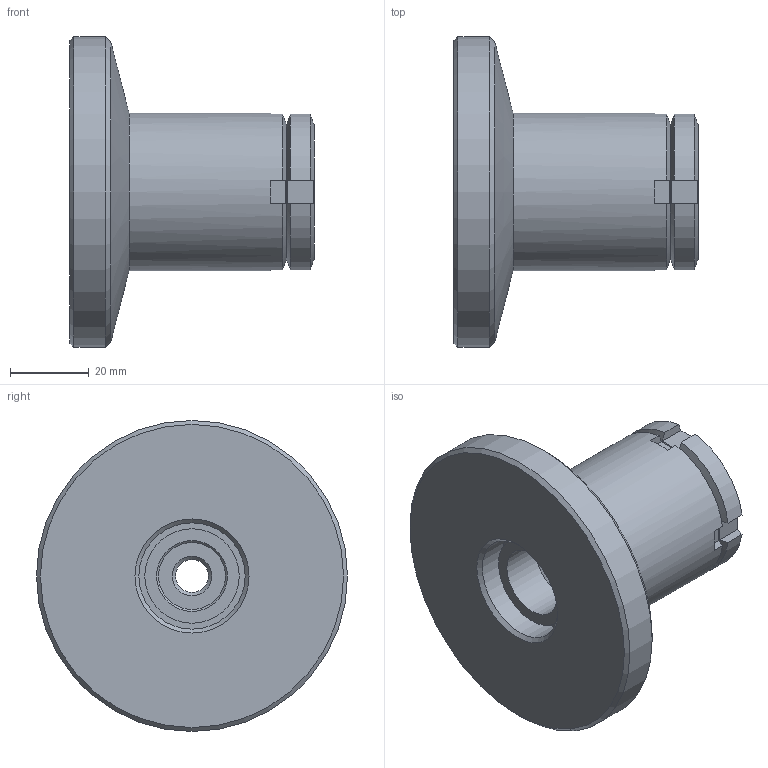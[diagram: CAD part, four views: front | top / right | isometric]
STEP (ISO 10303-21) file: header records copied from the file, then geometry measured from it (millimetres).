
FILE_DESCRIPTION( ( 'STEP AP203' ), '1' );
FILE_NAME( 'C:/Temp/Ganter_Step_05_03_2020/data/3_2/gn360/gn360_st/Levelling set GN 360-79-M10-86-A-ST (0-0).stp', '2020-03-13T05:41:46', ( 'License CC BY-ND 4.0' ), ( 'CADENAS' ), ' ', 'PARTsolutions', ' ' );
FILE_SCHEMA( ( 'CONFIG_CONTROL_DESIGN' ) );
Length unit declared in the file: millimetre
Products named in the file (4): Levelling set GN 360-79-M10-86-A-ST (0-0); _Levelling set GN 360-79-M10-86-A-ST (0-0)-1; _Levelling set GN 360-79-M10-86-A-ST (0-0)-2; _Levelling set GN 360-79-M10-86-A-ST (0-0)-3
Assembly tree (3 placements, depth 2):
  Levelling set GN 360-79-M10-86-A-ST (0-0)
    _Levelling set GN 360-79-M10-86-A-ST (0-0)-1
    _Levelling set GN 360-79-M10-86-A-ST (0-0)-2
    _Levelling set GN 360-79-M10-86-A-ST (0-0)-3
Bounding box: 62 x 79 x 79 mm (x, y, z)
Volume: 106341.7 mm3; surface area: 32550.2 mm2
Topology: 3 solids, 3 shells, 73 faces, 170 edges, 108 vertices
Faces by surface type: plane 39, cylinder 17, cone 14, sphere 2, torus 1
Full cylindrical faces by diameter (mm): 8.376 x1, 17 x1, 18 x1, 20 x1, 23.5 x1, 24 x1, 26 x1, 26.376 x1, 27 x1, 28 x1, 28.5 x1, 40 x1, 79 x1
Entity records: 2121 total; most frequent: CARTESIAN_POINT 483, DIRECTION 308, ORIENTED_EDGE 270, EDGE_CURVE 135, AXIS2_PLACEMENT_3D 132, EDGE_LOOP 114, VERTEX_POINT 103, FACE_OUTER_BOUND 89
